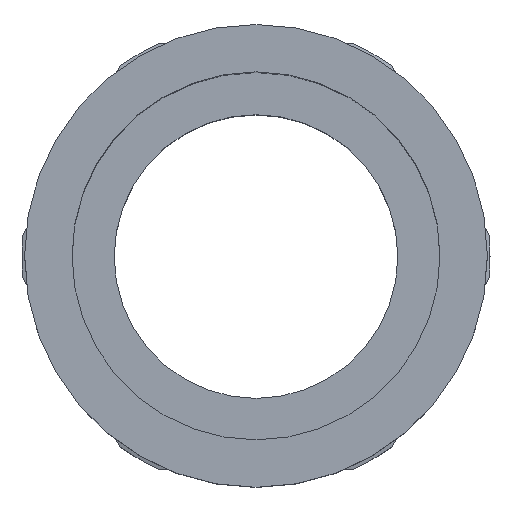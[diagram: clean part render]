
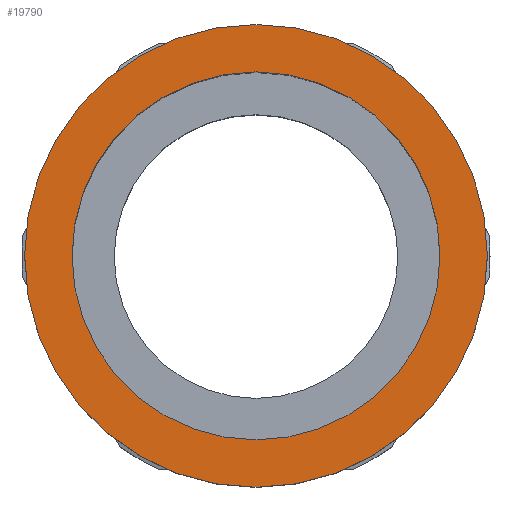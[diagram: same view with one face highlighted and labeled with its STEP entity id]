
A CAD part, top view. The second image highlights one B-rep face of the part: STEP entity #19790.
In plain terms, the highlighted planar face has unit normal (0, 0, 1) as drawn and (-1, 0, 0) by its records, which use the part's own axes.
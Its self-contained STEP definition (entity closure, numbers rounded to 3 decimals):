
#15740=CARTESIAN_POINT('',(-57.464,-60.,-24.65));
#15750=VERTEX_POINT('',#15740);
#15910=CARTESIAN_POINT('',(-57.464,-60.,24.65));
#15920=VERTEX_POINT('',#15910);
#15950=CARTESIAN_POINT('',(-57.464,-60.,0.));
#15960=DIRECTION('',(-1.,0.,0.));
#15970=DIRECTION('',(0.,0.,1.));
#15980=AXIS2_PLACEMENT_3D('',#15950,#15960,#15970);
#15990=CIRCLE('',#15980,24.65);
#16000=EDGE_CURVE('',#15750,#15920,#15990,.T.);
#18950=CARTESIAN_POINT('',(-57.464,-91.,0.));
#18960=VERTEX_POINT('',#18950);
#19180=CARTESIAN_POINT('',(-57.464,-29.,0.));
#19190=VERTEX_POINT('',#19180);
#19220=CARTESIAN_POINT('',(-57.464,-60.,0.));
#19230=DIRECTION('',(1.,0.,0.));
#19240=DIRECTION('',(0.,1.,0.));
#19250=AXIS2_PLACEMENT_3D('',#19220,#19230,#19240);
#19260=CIRCLE('',#19250,31.);
#19270=EDGE_CURVE('',#18960,#19190,#19260,.T.);
#19640=CARTESIAN_POINT('',(-57.464,-88.388,0.));
#19650=DIRECTION('',(-1.,0.,0.));
#19660=DIRECTION('',(0.,-1.,0.));
#19670=AXIS2_PLACEMENT_3D('',#19640,#19650,#19660);
#19680=PLANE('',#19670);
#19690=EDGE_CURVE('',#15920,#15750,#15990,.T.);
#19700=ORIENTED_EDGE('',*,*,#19690,.F.);
#19710=ORIENTED_EDGE('',*,*,#16000,.F.);
#19720=EDGE_LOOP('',(#19710,#19700));
#19730=FACE_BOUND('',#19720,.T.);
#19740=EDGE_CURVE('',#19190,#18960,#19260,.T.);
#19750=ORIENTED_EDGE('',*,*,#19740,.F.);
#19760=ORIENTED_EDGE('',*,*,#19270,.F.);
#19770=EDGE_LOOP('',(#19760,#19750));
#19780=FACE_OUTER_BOUND('',#19770,.T.);
#19790=ADVANCED_FACE('',(#19730,#19780),#19680,.T.);
